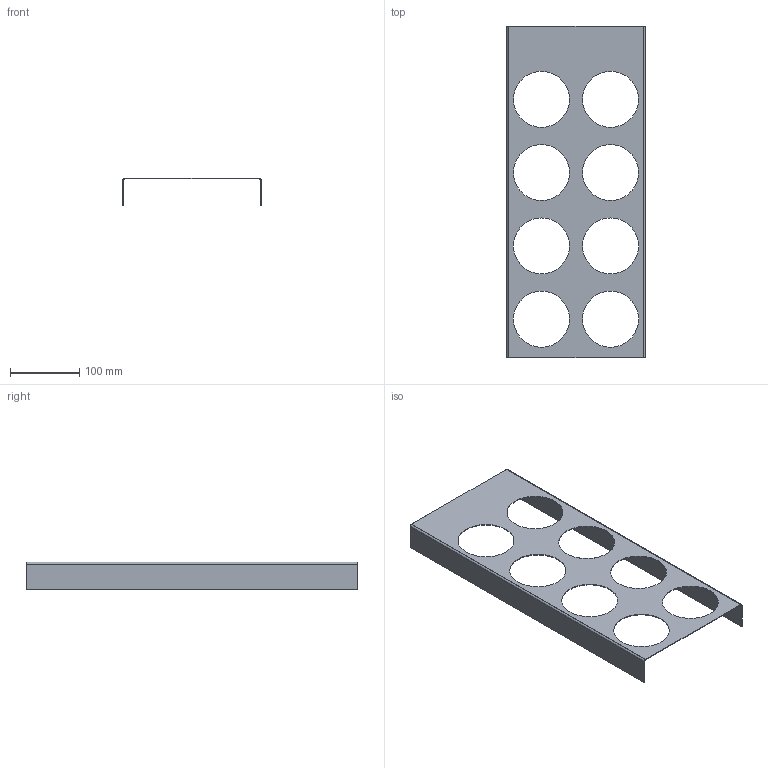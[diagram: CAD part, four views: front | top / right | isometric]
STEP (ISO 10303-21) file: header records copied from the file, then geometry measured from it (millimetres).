
FILE_DESCRIPTION (( 'STEP AP214' ), '1' );
FILE_NAME ('Gewuerzeinsatz_68315-01.STEP', '2010-10-25T13:43:26', ( 'grass' ), ( '' ), 'SwSTEP 2.0', 'SolidWorks 2010', '' );
FILE_SCHEMA (( 'AUTOMOTIVE_DESIGN' ));
Length unit declared in the file: millimetre
Products named in the file (1): Gewuerzeinsatz_68315-01
Bounding box: 200 x 479 x 40 mm (x, y, z)
Volume: 90910.1 mm3; surface area: 185365.6 mm2
Topology: 1 solids, 1 shells, 30 faces, 84 edges, 56 vertices
Faces by surface type: cylinder 20, plane 10
Entity records: 1054 total; most frequent: DIRECTION 186, CARTESIAN_POINT 171, ORIENTED_EDGE 168, EDGE_CURVE 84, AXIS2_PLACEMENT_3D 71, VERTEX_POINT 56, EDGE_LOOP 46, VECTOR 44
